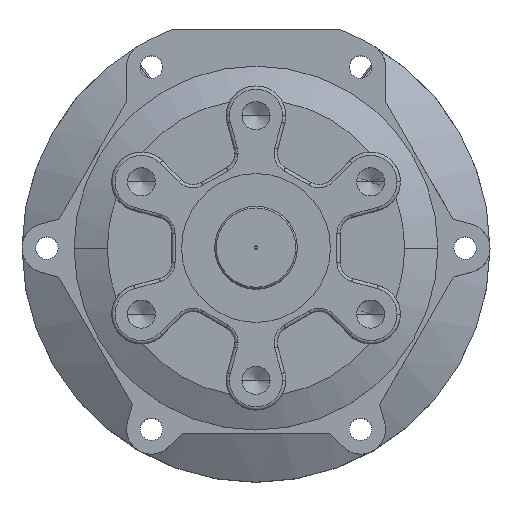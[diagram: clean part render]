
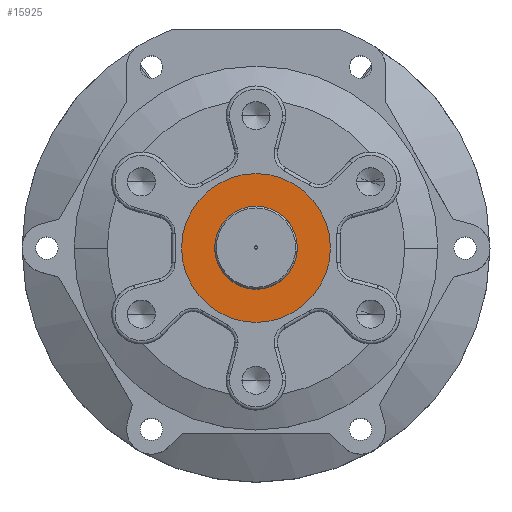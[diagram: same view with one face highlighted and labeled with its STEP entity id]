
A CAD part, top view. The second image highlights one B-rep face of the part: STEP entity #15925.
In plain terms, the highlighted planar face has unit normal (0, 0, 1).
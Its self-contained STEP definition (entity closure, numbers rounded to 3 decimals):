
#917 = FACE_BOUND ( 'NONE', #23992, .T. ) ;
#968 = CARTESIAN_POINT ( 'NONE',  ( -22.5, 0., 65. ) ) ;
#1505 = DIRECTION ( 'NONE',  ( 0., 0., 1. ) ) ;
#1946 = EDGE_CURVE ( 'NONE', #11144, #19040, #2795, .T. ) ;
#2795 = CIRCLE ( 'NONE', #21521, 22.5 ) ;
#3070 = EDGE_CURVE ( 'NONE', #19040, #11144, #8774, .T. ) ;
#3633 = CARTESIAN_POINT ( 'NONE',  ( 0., 0., 65. ) ) ;
#3754 = CARTESIAN_POINT ( 'NONE',  ( 0., 0., 65. ) ) ;
#5019 = ORIENTED_EDGE ( 'NONE', *, *, #3070, .T. ) ;
#8222 = DIRECTION ( 'NONE',  ( 0., 0., 1. ) ) ;
#8616 = DIRECTION ( 'NONE',  ( 1., 0., 0. ) ) ;
#8689 = VERTEX_POINT ( 'NONE', #16314 ) ;
#8774 = CIRCLE ( 'NONE', #13558, 22.5 ) ;
#8830 = CARTESIAN_POINT ( 'NONE',  ( 0., 0., 65. ) ) ;
#9092 = EDGE_CURVE ( 'NONE', #27702, #8689, #22512, .T. ) ;
#10832 = CARTESIAN_POINT ( 'NONE',  ( 12.5, 0., 65. ) ) ;
#11144 = VERTEX_POINT ( 'NONE', #23776 ) ;
#13015 = DIRECTION ( 'NONE',  ( 1., 0., 0. ) ) ;
#13422 = ORIENTED_EDGE ( 'NONE', *, *, #1946, .T. ) ;
#13558 = AXIS2_PLACEMENT_3D ( 'NONE', #8830, #26000, #13015 ) ;
#14631 = DIRECTION ( 'NONE',  ( 1., 0., 0. ) ) ;
#15925 = ADVANCED_FACE ( 'NONE', ( #917, #23242 ), #23591, .T. ) ;
#16173 = DIRECTION ( 'NONE',  ( 0., 0., 1. ) ) ;
#16314 = CARTESIAN_POINT ( 'NONE',  ( -12.5, 0., 65. ) ) ;
#16357 = CARTESIAN_POINT ( 'NONE',  ( 0., 0., 65. ) ) ;
#18490 = AXIS2_PLACEMENT_3D ( 'NONE', #3754, #1505, #20854 ) ;
#19040 = VERTEX_POINT ( 'NONE', #968 ) ;
#20254 = AXIS2_PLACEMENT_3D ( 'NONE', #3633, #25779, #8616 ) ;
#20854 = DIRECTION ( 'NONE',  ( 1., 0., 0. ) ) ;
#20973 = CIRCLE ( 'NONE', #27793, 12.5 ) ;
#21521 = AXIS2_PLACEMENT_3D ( 'NONE', #27529, #8222, #14631 ) ;
#22512 = CIRCLE ( 'NONE', #18490, 12.5 ) ;
#23242 = FACE_OUTER_BOUND ( 'NONE', #25061, .T. ) ;
#23591 = PLANE ( 'NONE',  #20254 ) ;
#23776 = CARTESIAN_POINT ( 'NONE',  ( 22.5, 0., 65. ) ) ;
#23992 = EDGE_LOOP ( 'NONE', ( #26092, #26589 ) ) ;
#25061 = EDGE_LOOP ( 'NONE', ( #5019, #13422 ) ) ;
#25779 = DIRECTION ( 'NONE',  ( 0., 0., 1. ) ) ;
#26000 = DIRECTION ( 'NONE',  ( 0., 0., 1. ) ) ;
#26092 = ORIENTED_EDGE ( 'NONE', *, *, #9092, .F. ) ;
#26589 = ORIENTED_EDGE ( 'NONE', *, *, #27445, .F. ) ;
#27185 = DIRECTION ( 'NONE',  ( 1., 0., 0. ) ) ;
#27445 = EDGE_CURVE ( 'NONE', #8689, #27702, #20973, .T. ) ;
#27529 = CARTESIAN_POINT ( 'NONE',  ( 0., 0., 65. ) ) ;
#27702 = VERTEX_POINT ( 'NONE', #10832 ) ;
#27793 = AXIS2_PLACEMENT_3D ( 'NONE', #16357, #16173, #27185 ) ;
